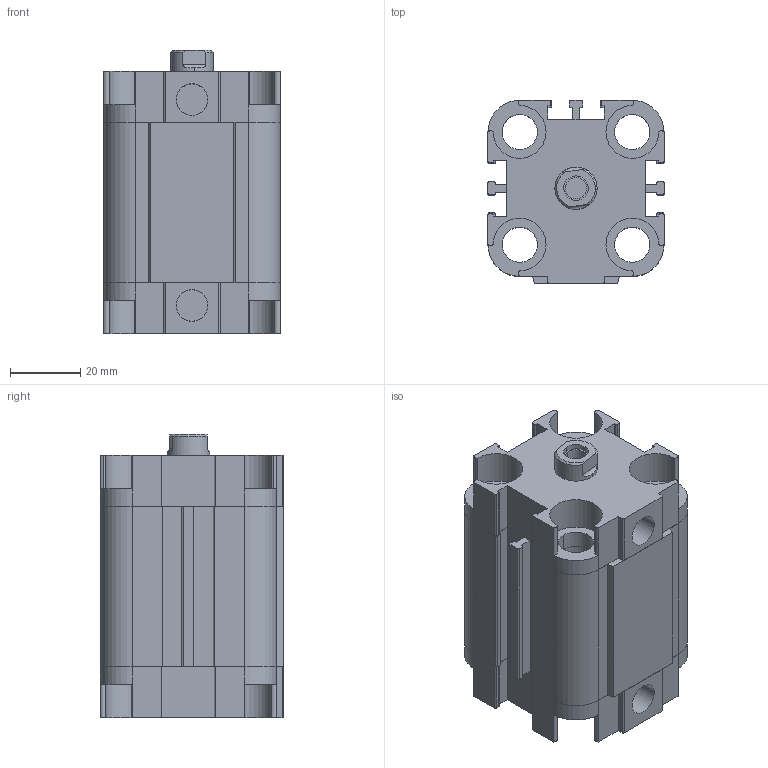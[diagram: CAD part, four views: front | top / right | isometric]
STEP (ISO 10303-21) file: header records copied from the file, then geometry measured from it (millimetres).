
FILE_DESCRIPTION (( 'STEP AP203' ), '1' );
FILE_NAME ('ADVU32X30-SCYLINDER.STEP', '2015-05-22T08:05:34', ( 'user' ), ( '' ), 'SwSTEP 2.0', 'SolidWorks 2013', '' );
FILE_SCHEMA (( 'CONFIG_CONTROL_DESIGN' ));
Length unit declared in the file: millimetre
Products named in the file (6): ADVU 32-S ARKA KAPAK; ADVU 32-S ORTA PÝSTON; ADVU 32X30-S M尳; ADVU 32X30-S BORU; ADVU32X30-SCYLINDER; ADVU 32-S 烰 KAPAK
Assembly tree (5 placements, depth 2):
  ADVU32X30-SCYLINDER
    ADVU 32-S ARKA KAPAK
    ADVU 32-S ORTA PÝSTON
    ADVU 32X30-S BORU
    ADVU 32-S 烰 KAPAK
    ADVU 32X30-S M尳
Bounding box: 50 x 52 x 80.5 mm (x, y, z)
Volume: 106379 mm3; surface area: 52977.3 mm2
Topology: 6 solids, 6 shells, 390 faces, 1027 edges, 678 vertices
Faces by surface type: cylinder 199, plane 179, cone 12
Entity records: 12975 total; most frequent: CARTESIAN_POINT 2242, DIRECTION 2223, ORIENTED_EDGE 2054, EDGE_CURVE 1027, AXIS2_PLACEMENT_3D 811, VERTEX_POINT 678, LINE 601, VECTOR 601
